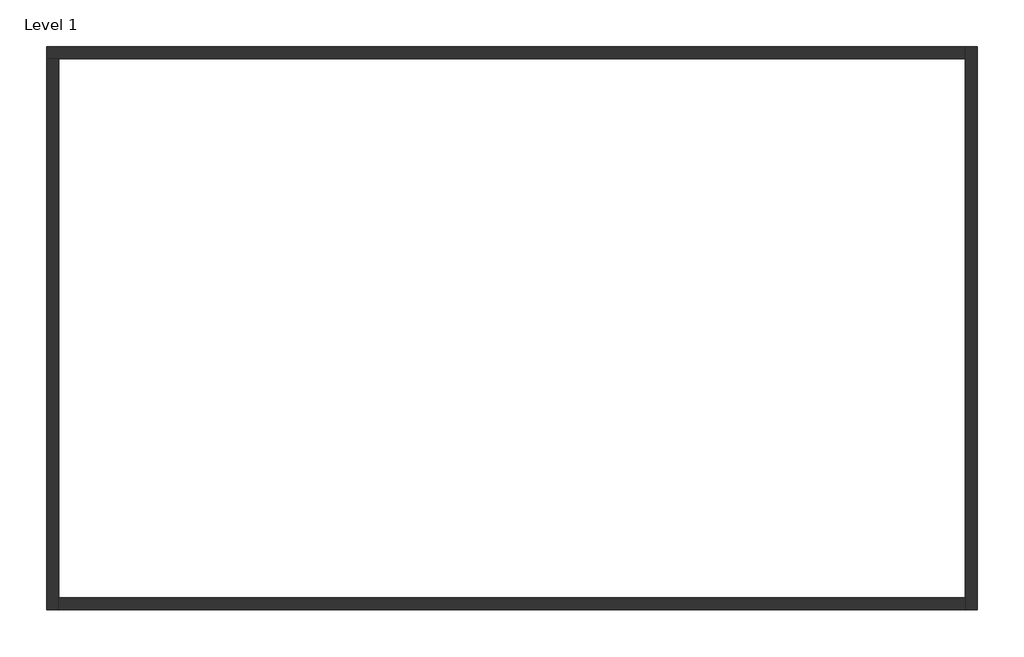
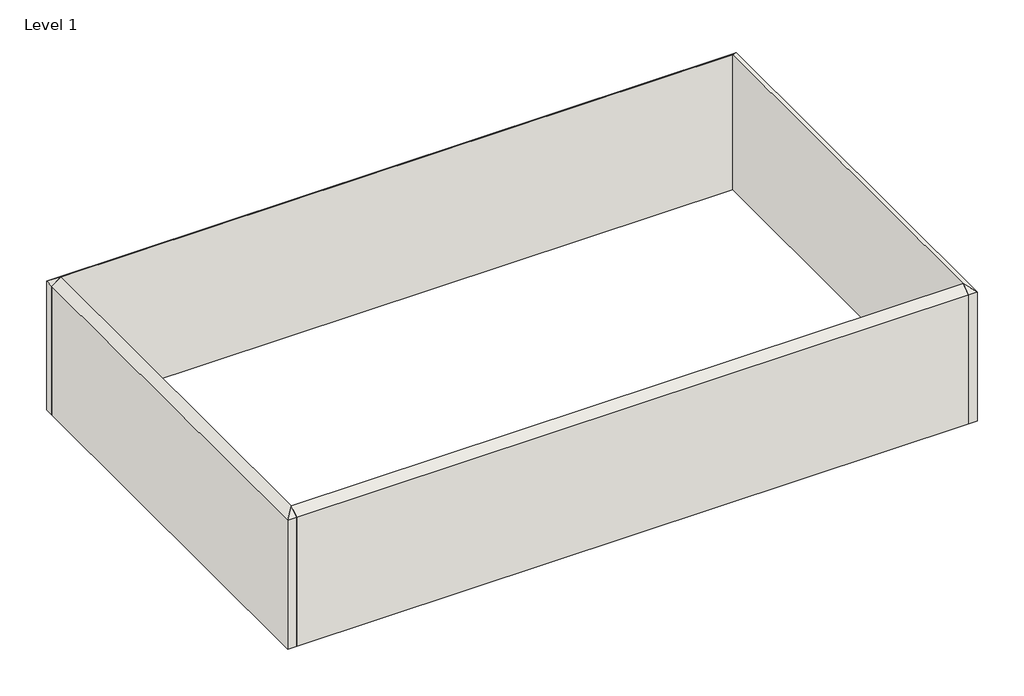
# One storey: 4 walls.
"""IFC4 building model written with IfcOpenShell, lengths in millimetres."""

import ifcopenshell
import ifcopenshell.guid

model = None  # the IFC model being written
_history = None  # IfcOwnerHistory: only IFC2X3 demands one
_inside = {}  # id of a spatial element -> (the spatial element, [elements in it])
_under = {}  # id of a project, library or spatial element -> (it, [spatial elements below it])
_declared = {}  # id of a project -> (the project, [libraries it declares])
_typed = {}  # id of a type object -> (the type object, [elements of that type])
_made_of = {}  # id of a material, layer set ... -> (it, [elements and type objects made of it])


def new_model(schema):
    """Start an empty IFC model of exactly this schema.

    Asked for "IFC4X3", IfcOpenShell would pick the latest addendum, in which some entities
    have other attributes; the version numbers below select the first issue.
    IFC2X3 requires an IfcOwnerHistory on every rooted entity: one is made here for all.
    """
    global model, _history
    if schema == "IFC4X3":
        model = ifcopenshell.file(schema_version=(4, 3, 0, 0))
    else:
        model = ifcopenshell.file(schema=schema)
    _inside.clear()
    _under.clear()
    _declared.clear()
    _typed.clear()
    _made_of.clear()
    _history = None
    if model.schema == "IFC2X3":
        org = make("IfcOrganization", Name="unknown")
        user = make(
            "IfcPersonAndOrganization",
            ThePerson=make("IfcPerson", FamilyName="unknown"),
            TheOrganization=org,
        )
        app = make(
            "IfcApplication",
            ApplicationDeveloper=org,
            Version="unknown",
            ApplicationFullName="unknown",
            ApplicationIdentifier="unknown",
        )
        _history = make(
            "IfcOwnerHistory",
            OwningUser=user,
            OwningApplication=app,
            ChangeAction="ADDED",
            CreationDate=0,
        )
    return model


def make(cls, **values):
    """One entity of the class cls with the attributes given. An attribute that is None is left unset."""
    return model.create_entity(
        cls, **{name: value for name, value in values.items() if value is not None}
    )


def rooted(cls, **values):
    """An entity with a GlobalId (a new one), such as an element, a storey or a relation."""
    return make(cls, GlobalId=ifcopenshell.guid.new(), OwnerHistory=_history, **values)


def si_unit(unit_type, name, prefix=None):
    """IfcSIUnit, for example si_unit("LENGTHUNIT", "METRE", prefix="MILLI")."""
    return make("IfcSIUnit", UnitType=unit_type, Prefix=prefix, Name=name)


def assignment(units):
    """IfcUnitAssignment: the units of a project."""
    return None if units is None else make("IfcUnitAssignment", Units=units)


def point(xyz):
    """IfcCartesianPoint."""
    return None if xyz is None else make("IfcCartesianPoint", Coordinates=xyz)


def direction(xyz):
    """IfcDirection."""
    return None if xyz is None else make("IfcDirection", DirectionRatios=xyz)


def frame(location, z_axis=None, x_axis=None):
    """IfcAxis2Placement3D, a coordinate frame: its origin and axes. An axis left out is left unset."""
    return make(
        "IfcAxis2Placement3D",
        Location=point(location),
        Axis=direction(z_axis),
        RefDirection=direction(x_axis),
    )


def origin():
    """The frame at (0, 0, 0) with its axes left unset."""
    return frame((0.0, 0.0, 0.0))


def place(relative_to, where):
    """IfcLocalPlacement: puts the frame where relative to a parent placement (None: the world)."""
    return make(
        "IfcLocalPlacement", PlacementRelTo=relative_to, RelativePlacement=where
    )


def context(
    kind, dimensions, precision=None, world=None, true_north=None, identifier=None
):
    """IfcGeometricRepresentationContext, for example the 3D "Model" context."""
    return make(
        "IfcGeometricRepresentationContext",
        ContextIdentifier=identifier,
        ContextType=kind,
        CoordinateSpaceDimension=dimensions,
        Precision=precision,
        WorldCoordinateSystem=world,
        TrueNorth=true_north,
    )


def project(units=None, contexts=None):
    """IfcProject with its units and contexts."""
    return rooted(
        "IfcProject",
        Name="project",
        RepresentationContexts=contexts,
        UnitsInContext=assignment(units),
    )


def spatial(cls, under=None, at=None, **own):
    """A site, building, storey or space (cls), placed at a placement, below another one or the project."""
    s = rooted(cls, ObjectPlacement=at, **own)
    if under is not None:
        _under.setdefault(under.id(), (under, []))[1].append(s)
    return s


def polyline(points):
    """IfcPolyline through the points."""
    return make("IfcPolyline", Points=[point(p) for p in points])


def outline(outer, holes=None, kind="AREA"):
    """IfcArbitraryClosedProfileDef: a profile drawn as a closed curve; with holes, ...WithVoids."""
    if holes is None:
        return make("IfcArbitraryClosedProfileDef", ProfileType=kind, OuterCurve=outer)
    return make(
        "IfcArbitraryProfileDefWithVoids",
        ProfileType=kind,
        OuterCurve=outer,
        InnerCurves=holes,
    )


def extrude(swept, where, along, depth):
    """IfcExtrudedAreaSolid: the profile swept, set in the frame where, extruded along a direction by depth."""
    return make(
        "IfcExtrudedAreaSolid",
        SweptArea=swept,
        Position=where,
        ExtrudedDirection=direction(along),
        Depth=depth,
    )


def faces_of(points, faces, orient=None, outer=None):
    """IfcFace entities. A face is a list of loops; a loop is a list of indices into points, from 0.

    orient and outer hold one flag for each loop. By default every Orientation is true, the
    first loop of a face is its IfcFaceOuterBound and the others are IfcFaceBound.
    """
    made = []
    for i, loops in enumerate(faces):
        bounds = []
        for j, loop in enumerate(loops):
            is_outer = j == 0 if outer is None else outer[i][j]
            bounds.append(
                make(
                    "IfcFaceOuterBound" if is_outer else "IfcFaceBound",
                    Bound=make("IfcPolyLoop", Polygon=[points[k] for k in loop]),
                    Orientation=True if orient is None else orient[i][j],
                )
            )
        made.append(make("IfcFace", Bounds=bounds))
    return made


def faceted_brep(points, faces, orient=None, outer=None, voids=None):
    """IfcFacetedBrep: a solid bounded by flat faces; with voids (closed shells), ...WithVoids."""
    shared = [point(p) for p in points]
    hull = make("IfcClosedShell", CfsFaces=faces_of(shared, faces, orient, outer))
    if voids is None:
        return make("IfcFacetedBrep", Outer=hull)
    return make(
        "IfcFacetedBrepWithVoids",
        Outer=hull,
        Voids=[
            make(cls, CfsFaces=faces_of(shared, fs, o, b)) for cls, fs, o, b in voids
        ],
    )


def shape(context_of_items, identifier, shape_type, items):
    """IfcShapeRepresentation: the items that make up one representation, for example the "Body"."""
    return make(
        "IfcShapeRepresentation",
        ContextOfItems=context_of_items,
        RepresentationIdentifier=identifier,
        RepresentationType=shape_type,
        Items=items,
    )


def made_of(thing, what):
    """Note that an element or type object is made of a material, layer set ...; save() writes the relation."""
    if what is not None:
        _made_of.setdefault(what.id(), (what, []))[1].append(thing)
    return thing


def element(
    cls,
    number,
    at=None,
    inside=None,
    cuts=None,
    type_object=None,
    material=None,
    context=None,
    identifier="Body",
    shape_type=None,
    held_by="IfcProductDefinitionShape",
    body=None,
    shapes=None,
    **own,
):
    """One element of the class cls, such as IfcWall. Its Tag is "e" and its number.

    at: its placement. inside: the storey or other place that contains it. cuts: it is an
    opening in that element (IfcRelVoidsElement). A single representation is given by context,
    identifier, shape_type and body (its items); several are given by shapes. held_by: the class
    of the entity that holds the representations. save() writes the other relations.
    """
    e = rooted(cls, Tag="e%d" % number, ObjectPlacement=at, **own)
    if body is not None:
        shapes = [shape(context, identifier, shape_type, body)]
    if shapes is not None:
        e.Representation = make(held_by, Representations=shapes)
    if inside is not None:
        _inside.setdefault(inside.id(), (inside, []))[1].append(e)
    if cuts is not None:
        rooted(
            "IfcRelVoidsElement", RelatingBuildingElement=cuts, RelatedOpeningElement=e
        )
    if type_object is not None:
        _typed.setdefault(type_object.id(), (type_object, []))[1].append(e)
    return made_of(e, material)


def aggregate(whole, parts):
    """IfcRelAggregates: a whole, such as a stair, and the parts it consists of."""
    return rooted("IfcRelAggregates", RelatingObject=whole, RelatedObjects=parts)


def save(model, path):
    """Write the relations noted so far, then the file.

    IfcRelAggregates (storeys below a building ...), IfcRelContainedInSpatialStructure (elements
    in a storey), IfcRelDefinesByType, IfcRelAssociatesMaterial and IfcRelDeclares: one each for
    every whole, place, type object, material and project.
    """
    for whole, parts in _under.values():
        aggregate(whole, parts)
    for where, things in _inside.values():
        rooted(
            "IfcRelContainedInSpatialStructure",
            RelatedElements=things,
            RelatingStructure=where,
        )
    for kind, things in _typed.values():
        rooted("IfcRelDefinesByType", RelatedObjects=things, RelatingType=kind)
    for what, things in _made_of.values():
        rooted("IfcRelAssociatesMaterial", RelatedObjects=things, RelatingMaterial=what)
    for by, libraries in _declared.values():
        rooted("IfcRelDeclares", RelatingContext=by, RelatedDefinitions=libraries)
    model.write(path)


model = new_model("IFC4")

# Units and contexts
model_context = context("Model", 3, world=origin())
ifc_project = project(units=[si_unit("LENGTHUNIT", "METRE", prefix="MILLI")], contexts=[model_context])

# Site, building, storey
site = spatial("IfcSite", under=ifc_project)
building = spatial("IfcBuilding", under=site)
storey = spatial("IfcBuildingStorey", under=building, Name="Level 1", Elevation=0.0)

# Walls
placement = place(None, origin())
element("IfcWall", 1, ObjectType="Generic - 8\"", at=placement, inside=storey, context=model_context, shape_type="Brep", body=[
    faceted_brep([(-7596.1466991, 6927.4122484, 0.0), (-7392.9466991, 6927.4122484, 0.0), (7643.8533009, 6927.4122484, 0.0), (7643.8533009, 6927.4122484, 3200.4), (-7392.9466991, 6927.4122484, 3200.4), (-7596.1466991, 6927.4122484, 3048.0), (-7596.1466991, 7130.6122484, 0.0), (-7596.1466991, 7130.6122484, 3048.0), (7643.8533009, 7130.6122484, 3048.0), (7643.8533009, 7130.6122484, 0.0)], [[[0, 1, 2, 3, 4, 5]], [[6, 7, 8, 9]], [[2, 1, 0, 6, 9]], [[0, 5, 7, 6]], [[3, 2, 9, 8]], [[5, 4, 7]], [[4, 3, 8, 7]]]),
])
element("IfcWall", 2, ObjectType="Generic - 8\"", at=placement, inside=storey, context=model_context, shape_type="Brep", body=[
    faceted_brep([(-7392.9466991, -2216.5877516, 0.0), (-7392.9466991, -2013.3877516, 0.0), (-7392.9466991, 6927.4122484, 0.0), (-7392.9466991, 6927.4122484, 3200.4), (-7392.9466991, -2013.3877516, 3200.4), (-7392.9466991, -2216.5877516, 3048.0), (-7596.1466991, -2216.5877516, 0.0), (-7596.1466991, -2216.5877516, 3048.0), (-7596.1466991, 6927.4122484, 3048.0), (-7596.1466991, 6927.4122484, 0.0)], [[[0, 1, 2, 3, 4, 5]], [[6, 7, 8, 9]], [[2, 1, 0, 6, 9]], [[0, 5, 7, 6]], [[3, 2, 9, 8]], [[5, 4, 7]], [[4, 3, 8, 7]]]),
])
element("IfcWall", 3, ObjectType="Generic - 8\"", at=placement, inside=storey, context=model_context, shape_type="SweptSolid", body=[
    extrude(outline(polyline([(-2013.3877516, 3200.4), (-2013.3877516, 0.0), (-2216.5877516, 0.0), (-2216.5877516, 3048.0), (-2013.3877516, 3200.4)])), frame((-7392.9466991, 0.0, 0.0), z_axis=(1.0, 0.0, 0.0), x_axis=(0.0, 1.0, 0.0)), (0.0, 0.0, 1.0), 15036.8),
])
element("IfcWall", 4, ObjectType="Generic - 8\"", at=placement, inside=storey, context=model_context, shape_type="Brep", body=[
    faceted_brep([(7643.8533009, 7130.6122484, 0.0), (7643.8533009, 6927.4122484, 0.0), (7643.8533009, -2013.3877516, 0.0), (7643.8533009, -2216.5877516, 0.0), (7643.8533009, -2216.5877516, 3048.0), (7643.8533009, -2013.3877516, 3200.4), (7643.8533009, 6927.4122484, 3200.4), (7643.8533009, 7130.6122484, 3048.0), (7847.0533009, 7130.6122484, 0.0), (7847.0533009, 7130.6122484, 3048.0), (7847.0533009, -2216.5877516, 3048.0), (7847.0533009, -2216.5877516, 0.0)], [[[0, 1, 2, 3, 4, 5, 6, 7]], [[8, 9, 10, 11]], [[3, 2, 1, 0, 8, 11]], [[0, 7, 9, 8]], [[4, 3, 11, 10]], [[7, 6, 9]], [[6, 5, 10, 9]], [[5, 4, 10]]]),
])

save(model, "model.ifc")
